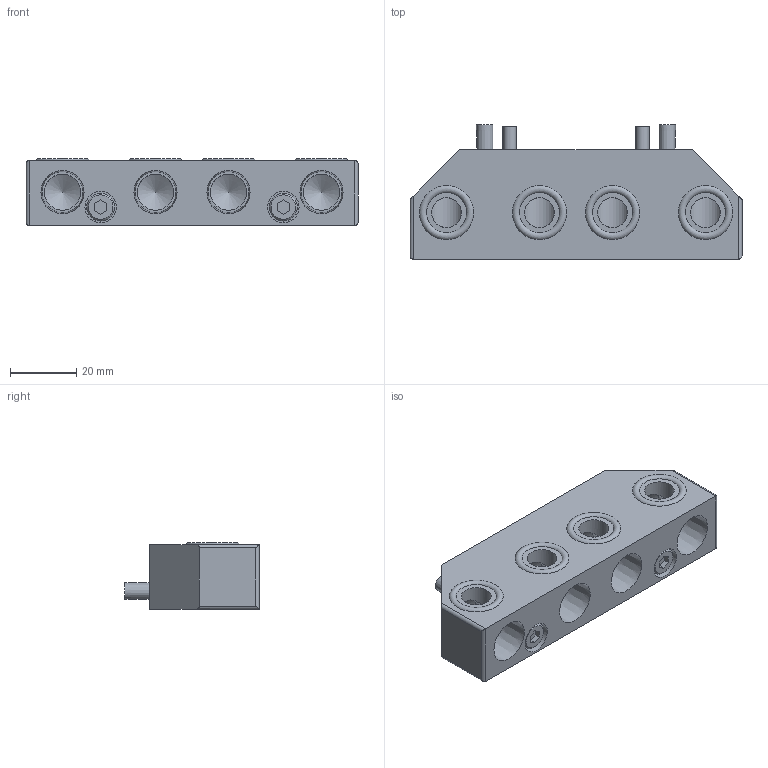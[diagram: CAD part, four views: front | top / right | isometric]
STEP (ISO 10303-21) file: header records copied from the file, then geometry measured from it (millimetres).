
FILE_DESCRIPTION(('STEP AP214'),'1');
FILE_NAME('KHB-45_300HS-EP84_ver1.stp','2026-04-27T08:00:04',(' '),(' '),'Spatial InterOp 3D',' ',' ');
FILE_SCHEMA(('AUTOMOTIVE_DESIGN { 1 0 10303 214 1 1 1 1 }'));
Length unit declared in the file: millimetre
Products named in the file (3): KHB-45~300HS-EP84_ver1; パーツ1
Assembly tree (2 placements, depth 2):
  KHB-45~300HS-EP84_ver1
    パーツ1
    パーツ1
Bounding box: 100 x 40.5 x 20.1 mm (x, y, z)
Volume: 49893.2 mm3; surface area: 17004.5 mm2
Topology: 2 solids, 3 shells, 89 faces, 198 edges, 131 vertices
Faces by surface type: plane 46, cylinder 27, cone 12, torus 4
Full cylindrical faces by diameter (mm): 4 x3, 5 x2, 5.5 x2, 8.385 x2, 9 x4, 9.5 x2, 10.9 x4
Entity records: 3212 total; most frequent: CARTESIAN_POINT 668, DIRECTION 384, ORIENTED_EDGE 276, AXIS2_PLACEMENT_3D 158, EDGE_LOOP 152, EDGE_CURVE 138, VERTEX_POINT 114, FACE_OUTER_BOUND 112
